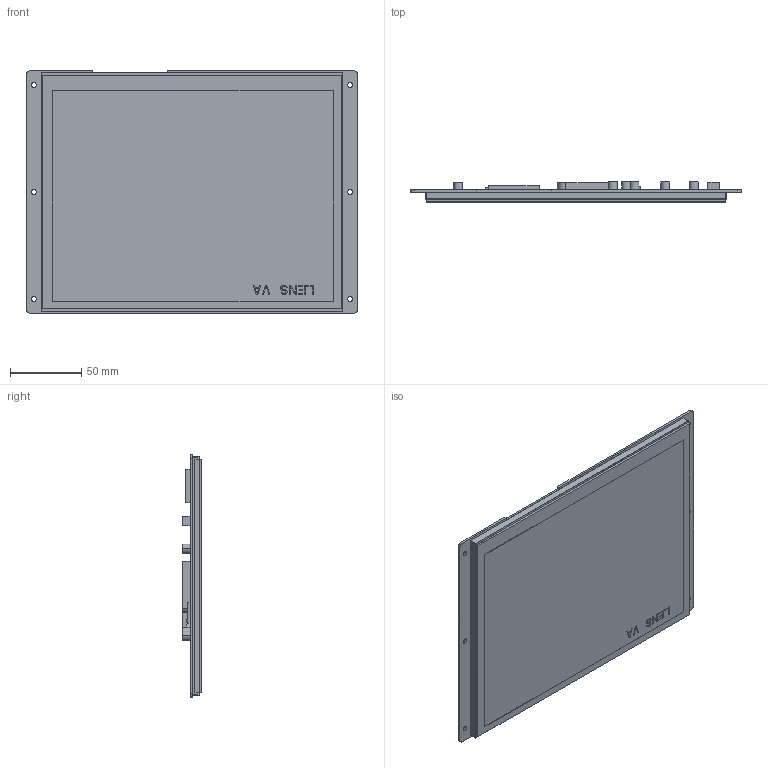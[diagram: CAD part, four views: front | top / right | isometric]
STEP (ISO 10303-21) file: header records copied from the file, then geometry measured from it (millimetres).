
FILE_DESCRIPTION((''),'2;1');
FILE_NAME('DMG10768K097-03WTC_ASM','2022-02-22T',('Administrator'),(''),'PRO/ENGINEER BY PARAMETRIC TECHNOLOGY CORPORATION, 2014320','PRO/ENGINEER BY PARAMETRIC TECHNOLOGY CORPORATION, 2014320','');
FILE_SCHEMA(('CONFIG_CONTROL_DESIGN','SHAPE_APPEARANCE_LAYERS_GROUPS'));
Length unit declared in the file: millimetre
Products named in the file (5): TK097001; LN10768T097HB3004; PCB; TPC097T0005G01V1; DMG10768K097-03WTC_ASM
Assembly tree (4 placements, depth 2):
  DMG10768K097-03WTC_ASM
    TK097001
    LN10768T097HB3004
    PCB
    TPC097T0005G01V1
Bounding box: 232.41 x 14.03 x 170.69 mm (x, y, z)
Volume: 225431.6 mm3; surface area: 242348.7 mm2
Topology: 4 solids, 4 shells, 306 faces, 810 edges, 540 vertices
Faces by surface type: plane 270, cylinder 36
Entity records: 9654 total; most frequent: CARTESIAN_POINT 1665, ORIENTED_EDGE 1620, DIRECTION 1512, EDGE_CURVE 810, VECTOR 738, LINE 738, VERTEX_POINT 540, AXIS2_PLACEMENT_3D 387
